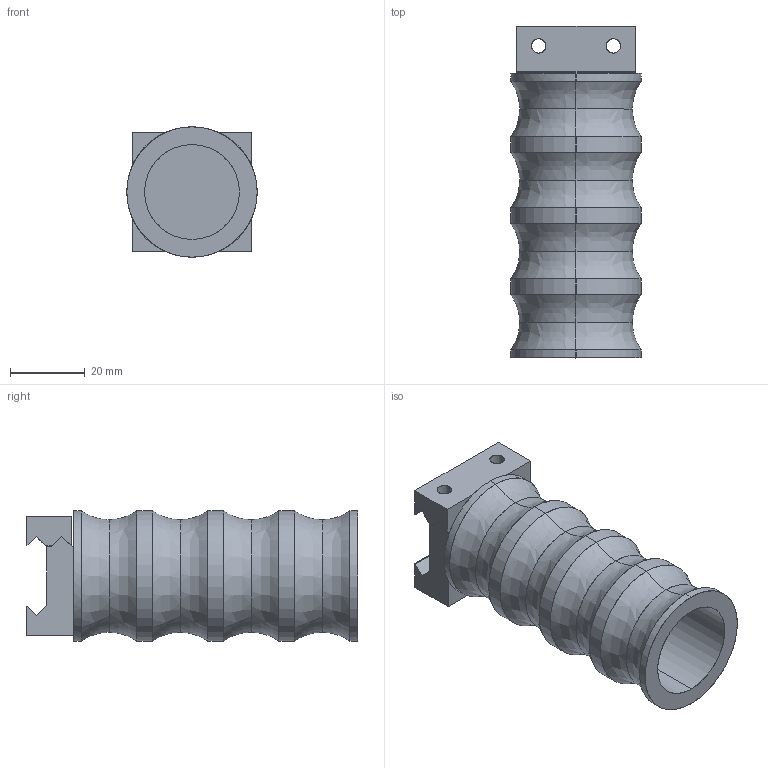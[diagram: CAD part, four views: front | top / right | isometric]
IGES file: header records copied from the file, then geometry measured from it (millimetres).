
Start section: SolidWorks IGES file using analytic representation for surfaces
Global section: file name: C:\Users\Shane\Desktop\ForeGrip.IGS; native system: SolidWorks 2011; preprocessor: SolidWorks 2011; author: Shane; date: 120419.093317; units: inch
Bounding box: 34.92 x 88.9 x 34.92 mm (x, y, z)
Surface area: 19066.3 mm2 (no closed solid volume)
Topology: 0 solids, 0 shells, 78 faces, 840 edges, 840 vertices
Faces by surface type: bspline 58, revolution 20
